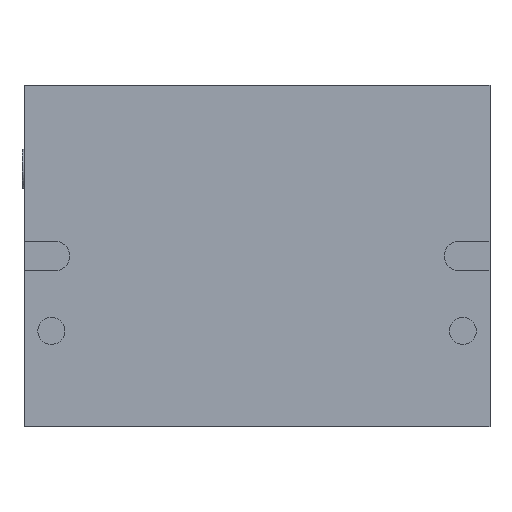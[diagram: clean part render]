
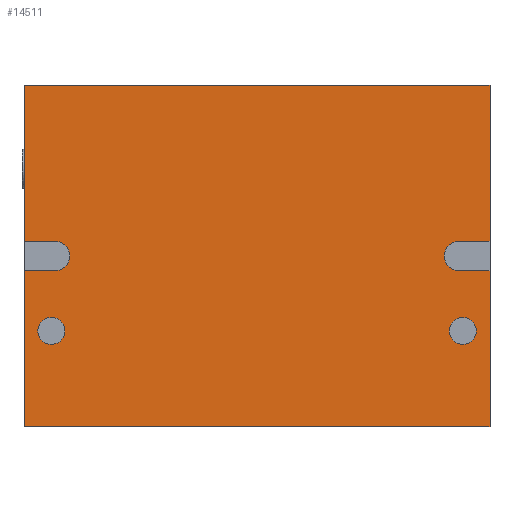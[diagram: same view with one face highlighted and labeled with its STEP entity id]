
A CAD part, front view. The second image highlights one B-rep face of the part: STEP entity #14511.
In plain terms, the highlighted planar face has unit normal (0, -1, 0).
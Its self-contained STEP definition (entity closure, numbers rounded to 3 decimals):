
#42=DIRECTION('',(1.,0.,0.));
#43=VECTOR('',#42,112.);
#44=CARTESIAN_POINT('',(-56.,-16.,-41.));
#45=LINE('',#44,#43);
#927=CARTESIAN_POINT('',(-49.45,-16.,-18.));
#928=DIRECTION('',(0.,-1.,0.));
#929=DIRECTION('',(1.,0.,0.));
#930=AXIS2_PLACEMENT_3D('',#927,#928,#929);
#935=CARTESIAN_POINT('',(-49.45,-16.,-18.));
#936=DIRECTION('',(0.,-1.,0.));
#937=DIRECTION('',(-1.,0.,0.));
#938=AXIS2_PLACEMENT_3D('',#935,#936,#937);
#943=CARTESIAN_POINT('',(49.45,-16.,-18.));
#944=DIRECTION('',(0.,-1.,0.));
#945=DIRECTION('',(1.,0.,0.));
#946=AXIS2_PLACEMENT_3D('',#943,#944,#945);
#951=CARTESIAN_POINT('',(49.45,-16.,-18.));
#952=DIRECTION('',(0.,-1.,0.));
#953=DIRECTION('',(-1.,0.,0.));
#954=AXIS2_PLACEMENT_3D('',#951,#952,#953);
#959=DIRECTION('',(-1.,0.,0.));
#960=VECTOR('',#959,7.5);
#961=CARTESIAN_POINT('',(56.,-16.,3.5));
#962=LINE('',#961,#960);
#966=CARTESIAN_POINT('',(48.5,-16.,0.));
#967=DIRECTION('',(0.,-1.,0.));
#968=DIRECTION('',(0.,0.,1.));
#969=AXIS2_PLACEMENT_3D('',#966,#967,#968);
#974=DIRECTION('',(-1.,0.,0.));
#975=VECTOR('',#974,7.5);
#976=CARTESIAN_POINT('',(56.,-16.,-3.5));
#977=LINE('',#976,#975);
#981=DIRECTION('',(0.,0.,1.));
#982=VECTOR('',#981,37.5);
#983=CARTESIAN_POINT('',(-56.,-16.,-41.));
#984=LINE('',#983,#982);
#988=DIRECTION('',(1.,0.,0.));
#989=VECTOR('',#988,7.5);
#990=CARTESIAN_POINT('',(-56.,-16.,-3.5));
#991=LINE('',#990,#989);
#995=CARTESIAN_POINT('',(-48.5,-16.,0.));
#996=DIRECTION('',(0.,1.,0.));
#997=DIRECTION('',(0.,0.,1.));
#998=AXIS2_PLACEMENT_3D('',#995,#996,#997);
#1003=DIRECTION('',(1.,0.,0.));
#1004=VECTOR('',#1003,7.5);
#1005=CARTESIAN_POINT('',(-56.,-16.,3.5));
#1006=LINE('',#1005,#1004);
#1010=DIRECTION('',(0.,0.,1.));
#1011=VECTOR('',#1010,37.5);
#1012=CARTESIAN_POINT('',(-56.,-16.,3.5));
#1013=LINE('',#1012,#1011);
#1151=DIRECTION('',(0.,0.,1.));
#1152=VECTOR('',#1151,37.5);
#1153=CARTESIAN_POINT('',(56.,-16.,3.5));
#1154=LINE('',#1153,#1152);
#1193=DIRECTION('',(0.,0.,1.));
#1194=VECTOR('',#1193,37.5);
#1195=CARTESIAN_POINT('',(56.,-16.,-41.));
#1196=LINE('',#1195,#1194);
#1221=DIRECTION('',(1.,0.,0.));
#1222=VECTOR('',#1221,112.);
#1223=CARTESIAN_POINT('',(-56.,-16.,41.));
#1224=LINE('',#1223,#1222);
#11976=CARTESIAN_POINT('',(-56.,-16.,-41.));
#11978=VERTEX_POINT('',#11976);
#11979=CARTESIAN_POINT('',(56.,-16.,-41.));
#11980=VERTEX_POINT('',#11979);
#11984=CARTESIAN_POINT('',(-56.,-16.,41.));
#11986=VERTEX_POINT('',#11984);
#11987=CARTESIAN_POINT('',(56.,-16.,41.));
#11988=VERTEX_POINT('',#11987);
#11995=CARTESIAN_POINT('',(-56.,-16.,3.5));
#11997=VERTEX_POINT('',#11995);
#11999=CARTESIAN_POINT('',(-56.,-16.,-3.5));
#12001=VERTEX_POINT('',#11999);
#12003=CARTESIAN_POINT('',(-48.5,-16.,3.5));
#12004=VERTEX_POINT('',#12003);
#12005=CARTESIAN_POINT('',(-48.5,-16.,-3.5));
#12006=VERTEX_POINT('',#12005);
#12575=CARTESIAN_POINT('',(-46.2,-16.,-18.));
#12576=CARTESIAN_POINT('',(-52.7,-16.,-18.));
#12577=VERTEX_POINT('',#12575);
#12578=VERTEX_POINT('',#12576);
#12579=CARTESIAN_POINT('',(52.7,-16.,-18.));
#12580=CARTESIAN_POINT('',(46.2,-16.,-18.));
#12581=VERTEX_POINT('',#12579);
#12582=VERTEX_POINT('',#12580);
#13972=CARTESIAN_POINT('',(48.5,-16.,3.5));
#13974=VERTEX_POINT('',#13972);
#13976=CARTESIAN_POINT('',(48.5,-16.,-3.5));
#13978=VERTEX_POINT('',#13976);
#14143=CARTESIAN_POINT('',(56.,-16.,3.5));
#14144=VERTEX_POINT('',#14143);
#14145=CARTESIAN_POINT('',(56.,-16.,-3.5));
#14146=VERTEX_POINT('',#14145);
#14472=CARTESIAN_POINT('',(-56.,-16.,-41.));
#14473=DIRECTION('',(0.,-1.,0.));
#14474=DIRECTION('',(1.,0.,0.));
#14475=AXIS2_PLACEMENT_3D('',#14472,#14473,#14474);
#14476=PLANE('',#14475);
#14478=ORIENTED_EDGE('',*,*,#14477,.T.);
#14480=ORIENTED_EDGE('',*,*,#14479,.T.);
#14482=ORIENTED_EDGE('',*,*,#14481,.F.);
#14484=ORIENTED_EDGE('',*,*,#14483,.F.);
#14485=ORIENTED_EDGE('',*,*,#14158,.F.);
#14486=ORIENTED_EDGE('',*,*,#14445,.T.);
#14488=ORIENTED_EDGE('',*,*,#14487,.T.);
#14490=ORIENTED_EDGE('',*,*,#14489,.F.);
#14491=ORIENTED_EDGE('',*,*,#14463,.F.);
#14492=ORIENTED_EDGE('',*,*,#14427,.T.);
#14494=ORIENTED_EDGE('',*,*,#14493,.T.);
#14496=ORIENTED_EDGE('',*,*,#14495,.F.);
#14497=EDGE_LOOP('',(#14478,#14480,#14482,#14484,#14485,#14486,#14488,#14490,
#14491,#14492,#14494,#14496));
#14498=FACE_OUTER_BOUND('',#14497,.F.);
#14500=ORIENTED_EDGE('',*,*,#14499,.T.);
#14502=ORIENTED_EDGE('',*,*,#14501,.T.);
#14503=EDGE_LOOP('',(#14500,#14502));
#14504=FACE_BOUND('',#14503,.F.);
#14506=ORIENTED_EDGE('',*,*,#14505,.T.);
#14508=ORIENTED_EDGE('',*,*,#14507,.T.);
#14509=EDGE_LOOP('',(#14506,#14508));
#14510=FACE_BOUND('',#14509,.F.);
#14511=ADVANCED_FACE('',(#14498,#14504,#14510),#14476,.T.);
#931=CIRCLE('',#930,3.25);
#939=CIRCLE('',#938,3.25);
#947=CIRCLE('',#946,3.25);
#955=CIRCLE('',#954,3.25);
#970=CIRCLE('',#969,3.5);
#999=CIRCLE('',#998,3.5);
#14158=EDGE_CURVE('',#11978,#11980,#45,.T.);
#14427=EDGE_CURVE('',#11997,#11986,#1013,.T.);
#14445=EDGE_CURVE('',#11978,#12001,#984,.T.);
#14463=EDGE_CURVE('',#11997,#12004,#1006,.T.);
#14477=EDGE_CURVE('',#14144,#13974,#962,.T.);
#14479=EDGE_CURVE('',#13974,#13978,#970,.T.);
#14481=EDGE_CURVE('',#14146,#13978,#977,.T.);
#14483=EDGE_CURVE('',#11980,#14146,#1196,.T.);
#14487=EDGE_CURVE('',#12001,#12006,#991,.T.);
#14489=EDGE_CURVE('',#12004,#12006,#999,.T.);
#14493=EDGE_CURVE('',#11986,#11988,#1224,.T.);
#14495=EDGE_CURVE('',#14144,#11988,#1154,.T.);
#14499=EDGE_CURVE('',#12581,#12582,#947,.T.);
#14501=EDGE_CURVE('',#12582,#12581,#955,.T.);
#14505=EDGE_CURVE('',#12577,#12578,#931,.T.);
#14507=EDGE_CURVE('',#12578,#12577,#939,.T.);
